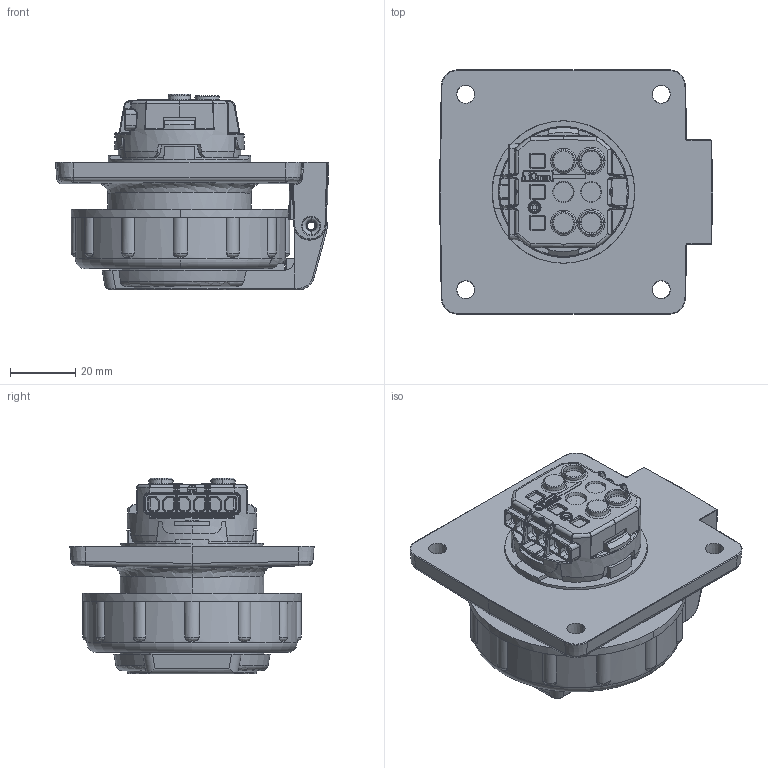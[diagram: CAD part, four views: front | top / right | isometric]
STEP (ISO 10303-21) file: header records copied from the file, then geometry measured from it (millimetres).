
FILE_DESCRIPTION((''),'2;1');
FILE_NAME('1112811_ASM_SW0001','2018-05-02T',('gisse'),('MENNEKES'),'PRO/ENGINEER BY PARAMETRIC TECHNOLOGY CORPORATION, 2015440','PRO/ENGINEER BY PARAMETRIC TECHNOLOGY CORPORATION, 2015440','');
FILE_SCHEMA(('AUTOMOTIVE_DESIGN { 1 0 10303 214 1 1 1 1 }'));
Products named in the file (1): 1112811_ASM_SW0001
Bounding box: 83.79 x 74.96 x 60.05 mm (x, y, z)
Volume: 146382.8 mm3; surface area: 32179.4 mm2
Topology: 2 solids, 2 shells, 1225 faces, 3148 edges, 1956 vertices
Faces by surface type: plane 509, cylinder 295, bspline 205, cone 128, torus 76, sphere 10, extrusion 2
Entity records: 69438 total; most frequent: CARTESIAN_POINT 17328, ORIENTED_EDGE 6288, DIRECTION 5311, PRESENTATION_STYLE_ASSIGNMENT 4373, STYLED_ITEM 3251, CURVE_STYLE 3146, EDGE_CURVE 3144, FILL_AREA_STYLE_COLOUR 2349
